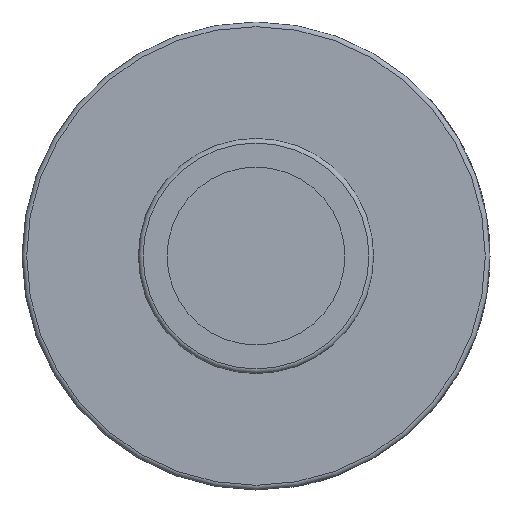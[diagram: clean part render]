
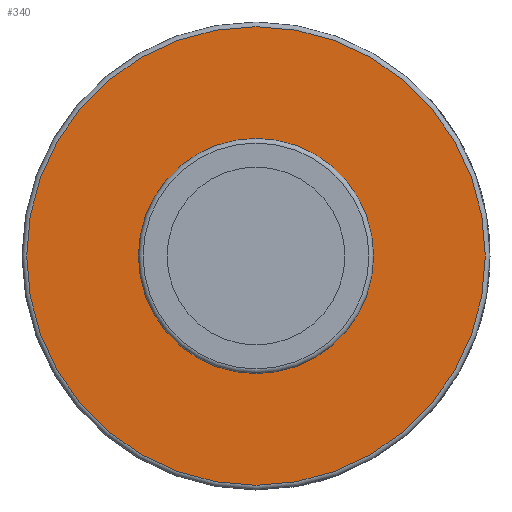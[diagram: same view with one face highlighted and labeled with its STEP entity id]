
A CAD part, left-side view. The second image highlights one B-rep face of the part: STEP entity #340.
In plain terms, the highlighted planar face has unit normal (-1, 0, 0).
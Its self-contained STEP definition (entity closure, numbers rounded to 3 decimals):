
#340 = ADVANCED_FACE( '', ( #843, #844 ), #845, .T. );
#843 = FACE_OUTER_BOUND( '', #1979, .T. );
#844 = FACE_BOUND( '', #1980, .T. );
#845 = PLANE( '', #1981 );
#1979 = EDGE_LOOP( '', ( #3339 ) );
#1980 = EDGE_LOOP( '', ( #3340 ) );
#1981 = AXIS2_PLACEMENT_3D( '', #3341, #3342, #3343 );
#3339 = ORIENTED_EDGE( '', *, *, #4997, .T. );
#3340 = ORIENTED_EDGE( '', *, *, #5015, .F. );
#3341 = CARTESIAN_POINT( '', ( 18.923, 0., 12.764 ) );
#3342 = DIRECTION( '', ( -1., 0., 0. ) );
#3343 = DIRECTION( '', ( 0., 0., 1. ) );
#4997 = EDGE_CURVE( '', #5908, #5908, #5909, .T. );
#5015 = EDGE_CURVE( '', #5937, #5937, #5938, .T. );
#5908 = VERTEX_POINT( '', #7625 );
#5909 = CIRCLE( '', #7626, 24.892 );
#5937 = VERTEX_POINT( '', #7670 );
#5938 = CIRCLE( '', #7671, 12.764 );
#7625 = CARTESIAN_POINT( '', ( 18.923, 0., 24.892 ) );
#7626 = AXIS2_PLACEMENT_3D( '', #9148, #9149, #9150 );
#7670 = CARTESIAN_POINT( '', ( 18.923, 0., 12.764 ) );
#7671 = AXIS2_PLACEMENT_3D( '', #9157, #9158, #9159 );
#9148 = CARTESIAN_POINT( '', ( 18.923, 0., 0. ) );
#9149 = DIRECTION( '', ( -1., 0., 0. ) );
#9150 = DIRECTION( '', ( 0., 0., 1. ) );
#9157 = CARTESIAN_POINT( '', ( 18.923, 0., 0. ) );
#9158 = DIRECTION( '', ( -1., 0., 0. ) );
#9159 = DIRECTION( '', ( 0., 0., 1. ) );
